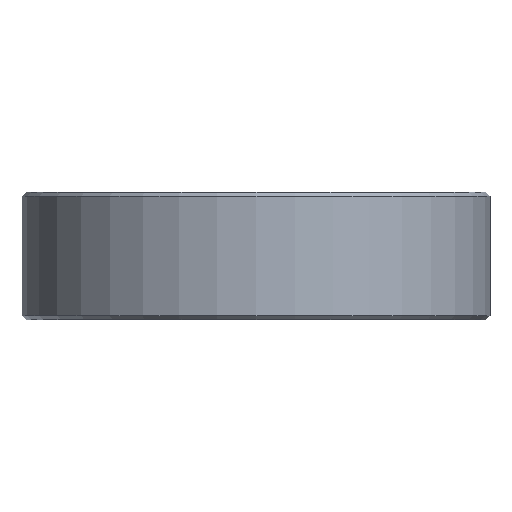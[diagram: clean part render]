
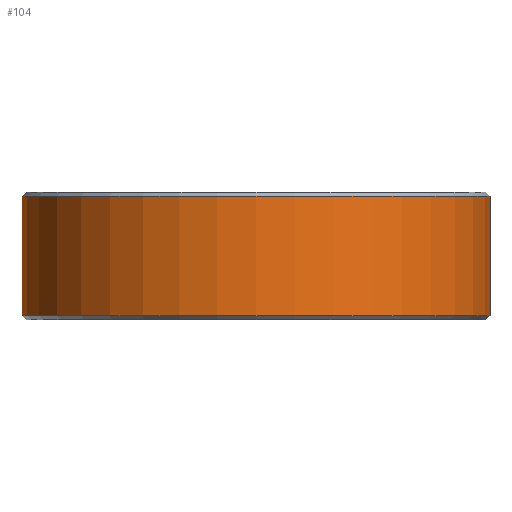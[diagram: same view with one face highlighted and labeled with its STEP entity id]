
A CAD part, front view. The second image highlights one B-rep face of the part: STEP entity #104.
In plain terms, the highlighted cylindrical face has radius 27.5 mm (diameter 55 mm), a partial arc.
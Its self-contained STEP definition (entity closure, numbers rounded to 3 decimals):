
#104 = ADVANCED_FACE( '', ( #203 ), #204, .T. );
#203 = FACE_OUTER_BOUND( '', #335, .T. );
#204 = CYLINDRICAL_SURFACE( '', #336, 27.5 );
#335 = EDGE_LOOP( '', ( #601, #602, #603, #604 ) );
#336 = AXIS2_PLACEMENT_3D( '', #605, #606, #607 );
#601 = ORIENTED_EDGE( '', *, *, #834, .T. );
#602 = ORIENTED_EDGE( '', *, *, #765, .T. );
#603 = ORIENTED_EDGE( '', *, *, #835, .F. );
#604 = ORIENTED_EDGE( '', *, *, #826, .T. );
#605 = CARTESIAN_POINT( '', ( 0., 0., 7.5 ) );
#606 = DIRECTION( '', ( 0., 0., -1. ) );
#607 = DIRECTION( '', ( 1., 0., 0. ) );
#765 = EDGE_CURVE( '', #877, #875, #878, .T. );
#826 = EDGE_CURVE( '', #986, #984, #987, .F. );
#834 = EDGE_CURVE( '', #984, #877, #999, .T. );
#835 = EDGE_CURVE( '', #986, #875, #1000, .T. );
#875 = VERTEX_POINT( '', #1064 );
#877 = VERTEX_POINT( '', #1069 );
#878 = LINE( '', #1070, #1071 );
#984 = VERTEX_POINT( '', #1392 );
#986 = VERTEX_POINT( '', #1397 );
#987 = LINE( '', #1398, #1399 );
#999 = CIRCLE( '', #1425, 27.5 );
#1000 = CIRCLE( '', #1426, 27.5 );
#1064 = CARTESIAN_POINT( '', ( 27.459, -1.5, 7. ) );
#1069 = CARTESIAN_POINT( '', ( 27.459, -1.5, -7. ) );
#1070 = CARTESIAN_POINT( '', ( 27.459, -1.5, 7.5 ) );
#1071 = VECTOR( '', #1501, 1000. );
#1392 = CARTESIAN_POINT( '', ( -27.459, -1.5, -7. ) );
#1397 = CARTESIAN_POINT( '', ( -27.459, -1.5, 7. ) );
#1398 = CARTESIAN_POINT( '', ( -27.459, -1.5, 7.5 ) );
#1399 = VECTOR( '', #1594, 1000. );
#1425 = AXIS2_PLACEMENT_3D( '', #1600, #1601, #1602 );
#1426 = AXIS2_PLACEMENT_3D( '', #1603, #1604, #1605 );
#1501 = DIRECTION( '', ( 0., 0., 1. ) );
#1594 = DIRECTION( '', ( 0., 0., 1. ) );
#1600 = CARTESIAN_POINT( '', ( 0., 0., -7. ) );
#1601 = DIRECTION( '', ( 0., 0., 1. ) );
#1602 = DIRECTION( '', ( 1., 0., 0. ) );
#1603 = CARTESIAN_POINT( '', ( 0., 0., 7. ) );
#1604 = DIRECTION( '', ( 0., 0., 1. ) );
#1605 = DIRECTION( '', ( 1., 0., 0. ) );
